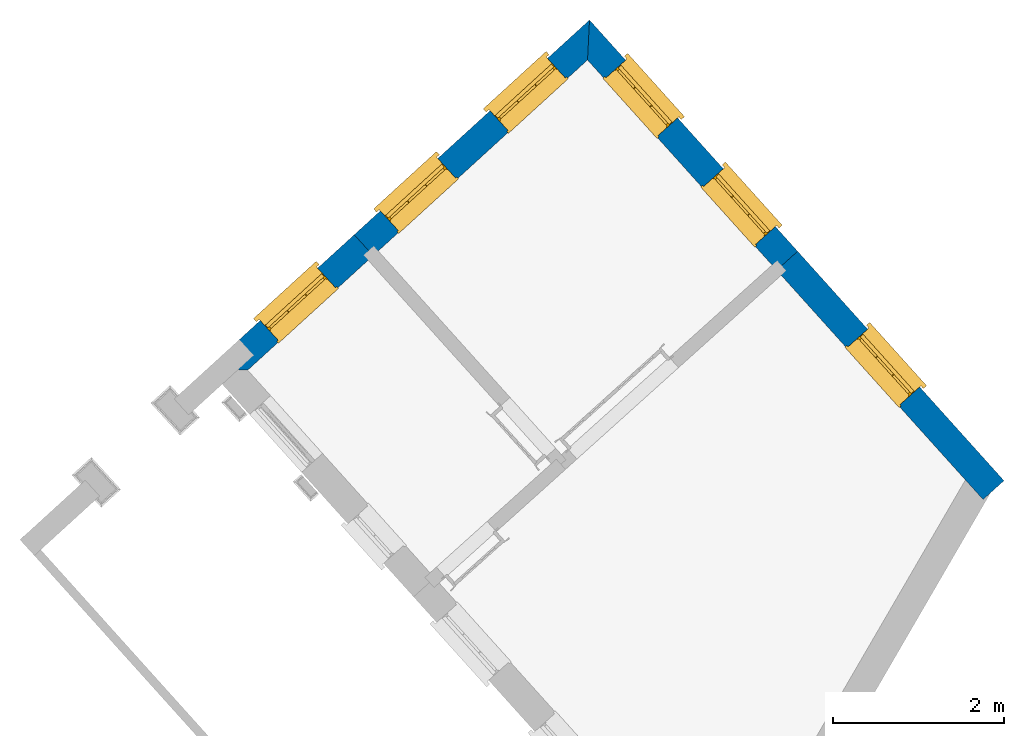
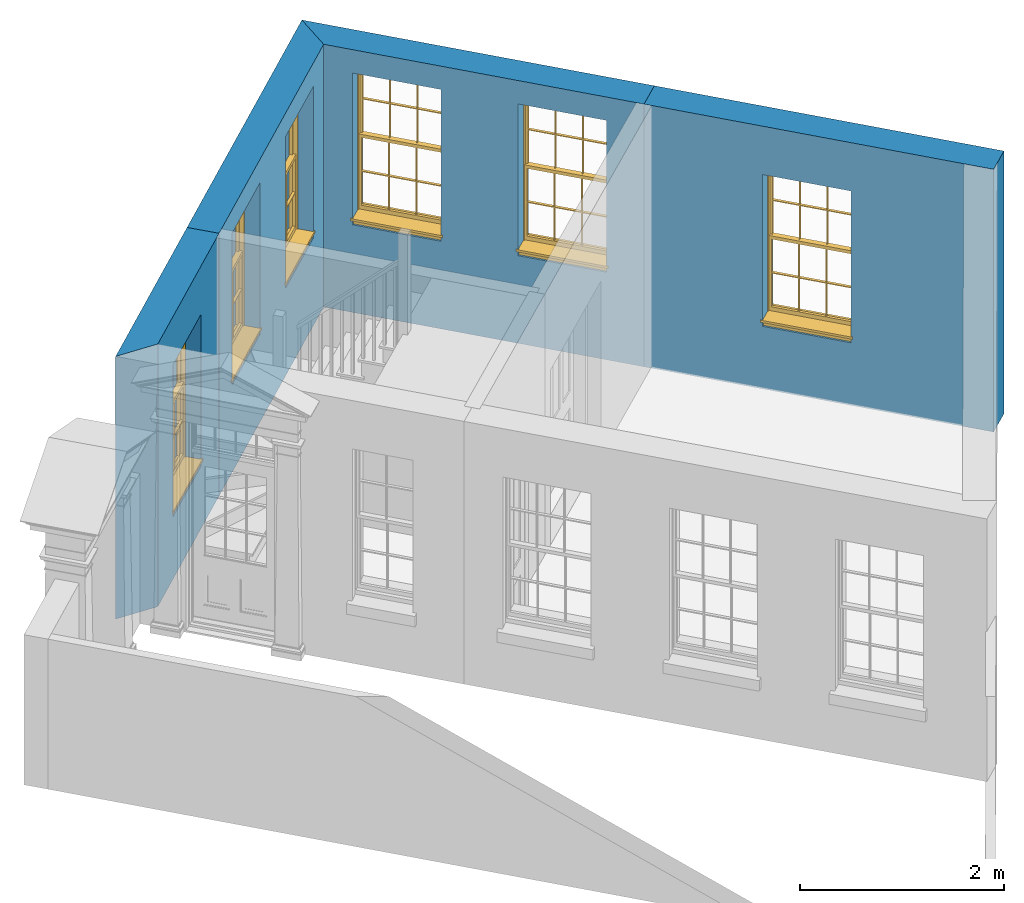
# One storey, part 6 of 7: 6 windows, 4 walls, 6 openings.
"""IFC4 building model written with IfcOpenShell, lengths in metres."""

from ifc_helpers import new_model, si_unit, frame, origin, origin_with_axes, place, context, subcontext, project, spatial, polyline, outline, extrude, faceted_brep, source, transform, mapped, material, layer, layer_set, layer_usage, type_object, type_shapes, element, fill, save


model = new_model("IFC4")

# Units and contexts
model_context = context("Model", 3, world=origin_with_axes())
body_context = subcontext(model_context, "Body", "Model", "MODEL_VIEW")
ifc_project = project(units=[si_unit("PLANEANGLEUNIT", "RADIAN"), si_unit("MASSUNIT", "GRAM", prefix="KILO"), si_unit("FORCEUNIT", "NEWTON", prefix="KILO"), si_unit("LENGTHUNIT", "METRE"), si_unit("AREAUNIT", "SQUARE_METRE"), si_unit("VOLUMEUNIT", "CUBIC_METRE")], contexts=[model_context, model_context])

# Sites, building, storey
site_1_placement = place(None, origin_with_axes())
site_1 = spatial("IfcSite", under=ifc_project, at=site_1_placement, Name="Tamar")
site_2_placement = place(site_1_placement, origin_with_axes())
site_2 = spatial("IfcSite", under=site_1, at=site_2_placement, Name="Site plot-7", CompositionType="ELEMENT")
building_placement = place(None, origin_with_axes())
building = spatial("IfcBuilding", under=site_2, at=building_placement, Name="Building plot-7", CompositionType="ELEMENT")
storey_placement = place(None, frame((0.0, 0.0, 26.0), z_axis=(0.0, 0.0, 1.0), x_axis=(1.0, 0.0, 0.0)))
storey = spatial("IfcBuildingStorey", under=building, at=storey_placement, Name="plot-7 0", CompositionType="ELEMENT", Elevation=26.0)

# Wall, opening, window
ifc_material = material(Name="Masonry")
ifc_layer = layer(ifc_material, 0.33, ventilated=False)
ifc_layer_set = layer_set([ifc_layer], Name="exterior_0.08_0.25")
ifc_layer_usage = layer_usage(ifc_layer_set, "AXIS2", "POSITIVE", -0.25)
wall_type = type_object("IfcWallType", Name="exterior_0.08_0.25", PredefinedType="SOLIDWALL", material=ifc_layer_set)
wall_1_placement = place(storey_placement, frame((248.082755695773, 285.854256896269, 0.0), z_axis=(0.0, 0.0, 1.0), x_axis=(-0.668853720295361, 0.743394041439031, 0.0)))
wall_1 = element("IfcWall", 1, at=wall_1_placement, inside=storey, type_object=wall_type, material=ifc_layer_usage, Name="exterior", context=body_context, shape_type="SweptSolid", body=[
    extrude(outline(polyline([(-0.249999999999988, 0.0799999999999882), (-0.249999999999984, -0.250000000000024), (3.36114548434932, -0.250000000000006), (3.36114548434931, 0.0800000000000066), (-0.249999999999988, 0.0799999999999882)])), origin_with_axes(), (0.0, 0.0, 1.0), 3.15),
])
opening_1_placement = place(wall_1_placement, frame((1.22557274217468, 0.0, 0.75)))
opening_1 = element("IfcOpeningElement", 2, at=opening_1_placement, cuts=wall_1, Name="My Opening", ObjectType="Opening", context=body_context, shape_type="SweptSolid", body=[
    extrude(outline(polyline([(0.0, -0.270000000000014), (0.909999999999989, -0.270000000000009), (0.909999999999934, 1.10000000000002), (-5.55111512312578e-14, 1.10000000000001), (0.0, -0.270000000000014)])), origin_with_axes(), (0.0, 0.0, 1.0), 1.82),
])
window_type = type_object("IfcWindowType", Name="sash_big", PartitioningType="DOUBLE_PANEL_HORIZONTAL", PredefinedType="NOTDEFINED")
shared_shape = source(origin(), body_context, "Body", "Brep", [
    faceted_brep([(0.033125, 0.145, 0.975209), (0.01, 0.145, 0.975209), (0.033125, 0.145, 1.376042), (0.876875, 0.145, 0.975209), (0.876875, 0.145, 1.376042), (0.9, 0.145, 0.975209), (0.876875, 0.145, 1.386042), (0.876875, 0.145, 1.786875), (0.9, 0.145, 1.81), (0.033125, 0.145, 1.786875), (0.033125, 0.145, 1.386042), (0.01, 0.145, 1.81), (0.876875, 0.115, 1.376042), (0.876875, 0.115, 0.975209), (0.9, 0.115, 0.937083), (0.033125, 0.115, 1.786875), (0.01, 0.115, 1.81), (0.033125, 0.115, 1.386042), (0.01, 0.115, 0.937083), (0.033125, 0.115, 0.975209), (0.033125, 0.115, 1.376042), (0.876875, 0.115, 1.786875), (0.876875, 0.115, 1.386042), (0.9, 0.115, 1.81), (0.033125, 0.145, 0.937083), (0.01, 0.145, 0.937083), (0.033125, 0.145, 0.53625), (0.876875, 0.145, 0.937083), (0.876875, 0.145, 0.53625), (0.9, 0.145, 0.937083), (0.876875, 0.145, 0.52625), (0.876875, 0.145, 0.125417), (0.9, 0.145, 0.077167), (0.033125, 0.145, 0.125417), (0.033125, 0.145, 0.52625), (0.01, 0.145, 0.077167), (-0.0425, 0.0, 0.01), (-0.0425, -0.05, 0.001667), (0.0, 0.0, 0.01), (0.9525, 0.0, 0.01), (0.91, 0.0, 0.01), (0.9525, -0.05, 0.001667), (-0.02, 0.33, 0.077167), (0.0, 0.33, 0.077167), (-0.02, 0.36, 0.077167), (0.0, 0.19, 0.077167), (0.01, 0.19, 0.077167), (0.91, 0.19, 0.077167), (0.91, 0.33, 0.077167), (0.9, 0.19, 0.077167), (0.93, 0.33, 0.077167), (0.93, 0.36, 0.077167), (0.01, 0.175, 0.975209), (0.9, 0.175, 0.975209), (0.876875, 0.175, 0.125417), (0.876875, 0.175, 0.52625), (0.9, 0.175, 0.077167), (0.876875, 0.175, 0.53625), (0.876875, 0.175, 0.937083), (0.033125, 0.175, 0.125417), (0.01, 0.175, 0.077167), (0.033125, 0.175, 0.52625), (0.033125, 0.175, 0.937083), (0.033125, 0.175, 0.53625), (-0.02, 0.33, 0.052167), (-0.02, 0.36, 0.052167), (0.93, 0.36, 0.052167), (0.93, 0.33, 0.052167), (0.91, 0.33, 0.052167), (0.0, 0.33, 0.052167), (0.91, 0.1, 0.026667), (0.0, 0.1, 0.026667), (-0.0425, -0.05, -0.123333), (0.9525, -0.05, -0.123333), (-0.0425, 0.0, -0.123333), (0.9525, 0.0, -0.123333), (0.01, 0.19, 1.81), (0.9, 0.19, 1.81), (0.0, 0.19, 1.82), (0.91, 0.19, 1.82), (0.01, 0.1, 0.077167), (0.9, 0.1, 0.077167), (0.592292, 0.145, 0.125417), (0.592292, 0.175, 0.125417), (0.317708, 0.175, 0.125417), (0.317708, 0.145, 0.125417), (0.592292, 0.145, 0.53625), (0.317708, 0.145, 0.53625), (0.317708, 0.145, 0.52625), (0.592292, 0.145, 0.52625), (0.592292, 0.175, 0.53625), (0.317708, 0.175, 0.53625), (0.592292, 0.115, 1.386042), (0.592292, 0.145, 1.386042), (0.317708, 0.145, 1.386042), (0.317708, 0.115, 1.386042), (0.317708, 0.115, 1.376042), (0.592292, 0.115, 1.376042), (0.317708, 0.145, 1.376042), (0.592292, 0.145, 1.376042), (0.602292, 0.115, 1.376042), (0.592292, 0.115, 0.975209), (0.602292, 0.115, 0.975209), (0.602292, 0.145, 0.975209), (0.592292, 0.145, 0.975209), (0.602292, 0.145, 1.376042), (0.602292, 0.175, 0.53625), (0.602292, 0.145, 0.53625), (0.317708, 0.175, 0.52625), (0.307708, 0.175, 0.125417), (0.307708, 0.175, 0.52625), (0.602292, 0.175, 0.52625), (0.602292, 0.175, 0.125417), (0.592292, 0.175, 0.52625), (0.307708, 0.175, 0.53625), (0.317708, 0.175, 0.937083), (0.307708, 0.175, 0.937083), (0.602292, 0.175, 0.937083), (0.592292, 0.175, 0.937083), (0.307708, 0.145, 0.52625), (0.307708, 0.145, 0.125417), (0.307708, 0.145, 0.53625), (0.307708, 0.145, 0.937083), (0.592292, 0.145, 0.937083), (0.317708, 0.145, 0.937083), (0.602292, 0.145, 0.937083), (0.602292, 0.145, 0.52625), (0.602292, 0.145, 0.125417), (0.307708, 0.115, 1.386042), (0.307708, 0.115, 1.376042), (0.307708, 0.115, 0.975209), (0.317708, 0.115, 0.975209), (0.317708, 0.115, 1.786875), (0.307708, 0.115, 1.786875), (0.602292, 0.115, 1.786875), (0.592292, 0.115, 1.786875), (0.602292, 0.115, 1.386042), (0.602292, 0.145, 1.386042), (0.307708, 0.145, 1.386042), (0.307708, 0.145, 1.786875), (0.317708, 0.145, 1.786875), (0.592292, 0.145, 1.786875), (0.602292, 0.145, 1.786875), (0.307708, 0.145, 1.376042), (0.317708, 0.145, 0.975209), (0.307708, 0.145, 0.975209), (0.91, 0.1, 1.82), (0.9, 0.1, 1.81), (0.01, 0.1, 1.81), (0.0, 0.1, 1.82), (0.91, 0.0, 0.0), (0.0, 0.0, 0.0), (0.91, 0.33, 0.0), (0.0, 0.33, 0.0)], [[[0, 1, 2]], [[3, 4, 5]], [[6, 7, 8]], [[9, 10, 11]], [[12, 13, 14]], [[15, 16, 17]], [[18, 19, 20]], [[21, 22, 23]], [[24, 25, 26]], [[27, 28, 29]], [[30, 31, 32]], [[33, 34, 35]], [[14, 27, 29]], [[25, 24, 18]], [[36, 37, 38]], [[39, 40, 41]], [[42, 43, 44]], [[45, 46, 43]], [[47, 48, 49]], [[50, 51, 48]], [[1, 0, 52]], [[5, 53, 3]], [[54, 55, 56]], [[57, 58, 53]], [[59, 60, 61]], [[62, 63, 52]], [[48, 43, 46, 49]], [[51, 44, 43, 48]], [[64, 42, 44, 65]], [[65, 44, 51, 66]], [[66, 51, 50, 67]], [[65, 66, 68, 69]], [[60, 56, 49, 46]], [[70, 71, 38, 40]], [[37, 41, 40, 38]], [[37, 72, 73, 41]], [[74, 75, 73, 72]], [[8, 11, 76, 77]], [[76, 78, 79, 77]], [[32, 35, 80, 81]], [[81, 80, 71, 70]], [[82, 83, 84, 85]], [[86, 87, 88, 89]], [[86, 90, 91, 87]], [[92, 93, 94, 95]], [[92, 95, 96, 97]], [[96, 98, 99, 97]], [[100, 97, 101, 102]], [[103, 104, 99, 105]], [[97, 99, 104, 101]], [[102, 103, 105, 100]], [[28, 57, 106, 107]], [[108, 84, 109, 110]], [[111, 112, 83, 113]], [[114, 110, 61, 63]], [[90, 113, 108, 91]], [[115, 91, 114, 116]], [[117, 106, 90, 118]], [[111, 106, 57, 55]], [[119, 110, 109, 120]], [[34, 61, 110, 119]], [[89, 113, 83, 82]], [[88, 108, 113, 89]], [[85, 84, 108, 88]], [[121, 114, 63, 26]], [[122, 116, 114, 121]], [[123, 118, 90, 86]], [[87, 91, 115, 124]], [[107, 106, 117, 125]], [[126, 111, 55, 30]], [[127, 112, 111, 126]], [[126, 30, 28, 107]], [[88, 119, 120, 85]], [[126, 89, 82, 127]], [[125, 123, 86, 107]], [[121, 26, 34, 119]], [[124, 122, 121, 87]], [[128, 17, 20, 129]], [[96, 129, 130, 131]], [[132, 133, 128, 95]], [[134, 135, 92, 136]], [[100, 12, 22, 136]], [[137, 6, 4, 105]], [[94, 138, 139, 140]], [[137, 93, 141, 142]], [[99, 98, 94, 93]], [[143, 2, 10, 138]], [[144, 145, 143, 98]], [[129, 143, 145, 130]], [[20, 2, 143, 129]], [[131, 144, 98, 96]], [[128, 138, 10, 17]], [[133, 139, 138, 128]], [[135, 141, 93, 92]], [[95, 94, 140, 132]], [[22, 6, 137, 136]], [[136, 137, 142, 134]], [[100, 105, 4, 12]], [[107, 86, 89, 126]], [[106, 111, 113, 90]], [[91, 108, 110, 114]], [[87, 121, 119, 88]], [[97, 100, 136, 92]], [[129, 96, 95, 128]], [[98, 143, 138, 94]], [[105, 99, 93, 137]], [[131, 101, 104, 144]], [[124, 115, 118, 123]], [[132, 140, 141, 135]], [[120, 109, 59, 33]], [[15, 9, 139, 133]], [[134, 142, 7, 21]], [[31, 54, 112, 127]], [[36, 74, 72, 37]], [[39, 41, 73, 75]], [[18, 14, 101, 131]], [[23, 16, 132, 135]], [[83, 56, 60, 84]], [[52, 53, 118, 115]], [[53, 52, 144, 104]], [[11, 8, 141, 140]], [[14, 18, 124, 123]], [[2, 1, 11, 10]], [[8, 5, 4, 6]], [[57, 53, 56, 55]], [[60, 52, 63, 61]], [[26, 25, 35, 34]], [[32, 29, 28, 30]], [[14, 23, 22, 12]], [[18, 20, 17, 16]], [[19, 0, 2, 20]], [[17, 10, 9, 15]], [[12, 4, 3, 13]], [[21, 7, 6, 22]], [[27, 58, 57, 28]], [[30, 55, 54, 31]], [[33, 59, 61, 34]], [[26, 63, 62, 24]], [[5, 8, 77, 53]], [[76, 11, 1, 52]], [[46, 45, 78, 76]], [[49, 77, 79, 47]], [[70, 146, 147, 81]], [[71, 80, 148, 149]], [[19, 130, 145, 0]], [[102, 13, 3, 103]], [[116, 122, 24, 62]], [[29, 32, 81, 14]], [[80, 35, 25, 18]], [[60, 46, 76, 52]], [[77, 49, 56, 53]], [[23, 14, 81, 147]], [[16, 148, 80, 18]], [[35, 85, 120]], [[120, 33, 35]], [[127, 82, 32]], [[32, 31, 127]], [[32, 82, 85, 35]], [[102, 101, 14]], [[14, 13, 102]], [[18, 131, 130]], [[130, 19, 18]], [[134, 21, 23]], [[23, 135, 134]], [[16, 15, 133]], [[133, 132, 16]], [[11, 140, 139]], [[139, 9, 11]], [[142, 141, 8]], [[8, 7, 142]], [[23, 147, 148, 16]], [[146, 149, 148, 147]], [[52, 115, 116]], [[116, 62, 52]], [[118, 53, 117]], [[58, 117, 53]], [[27, 125, 117, 58]], [[56, 83, 112]], [[112, 54, 56]], [[109, 84, 60]], [[60, 59, 109]], [[125, 27, 14]], [[14, 123, 125]], [[122, 124, 18]], [[18, 24, 122]], [[145, 144, 52]], [[52, 0, 145]], [[103, 3, 53]], [[53, 104, 103]], [[79, 78, 149, 146]], [[78, 45, 71, 149]], [[146, 70, 47, 79]], [[150, 75, 74, 151]], [[68, 66, 67]], [[48, 68, 67, 50]], [[69, 64, 65]], [[42, 64, 69, 43]], [[69, 68, 152, 153]], [[70, 68, 48, 47]], [[150, 152, 68, 70]], [[43, 69, 71, 45]], [[69, 153, 151, 71]], [[152, 150, 151, 153]], [[38, 151, 74, 36]], [[71, 151, 38]], [[39, 75, 150, 40]], [[40, 150, 70]]]),
])
type_shapes(window_type, [shared_shape])
window_1_placement = place(storey_placement, frame((247.463743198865, 286.945930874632, 0.75), z_axis=(0.0, 0.0, 1.0), x_axis=(-0.608656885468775, 0.676488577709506, 0.0)))
window_1 = element("IfcWindow", 3, at=window_1_placement, inside=storey, type_object=window_type, Name="living street window", OverallHeight=1.82, OverallWidth=0.91, context=body_context, shape_type="MappedRepresentation", body=[
    mapped(shared_shape, transform((0.0, 0.0, 0.0), scale=1.0)),
])
fill(opening_1, window_1)

# Wall, openings, windows
wall_2_placement = place(storey_placement, frame((245.834641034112, 288.352912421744, 0.0), z_axis=(0.0, 0.0, 1.0), x_axis=(-0.668853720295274, 0.743394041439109, 0.0)))
wall_2 = element("IfcWall", 4, at=wall_2_placement, inside=storey, type_object=wall_type, material=ifc_layer_usage, Name="exterior", context=body_context, shape_type="SweptSolid", body=[
    extrude(outline(polyline([(-1.36019948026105e-14, 0.080000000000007), (2.89921290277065e-14, -0.250000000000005), (3.64121916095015, -0.250000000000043), (3.30886085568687, 0.0799999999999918), (-1.36019948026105e-14, 0.080000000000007)])), origin_with_axes(), (0.0, 0.0, 1.0), 3.15),
])
opening_2_placement = place(wall_2_placement, frame((0.38943256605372, 0.0, 1.05)))
opening_2 = element("IfcOpeningElement", 5, at=opening_2_placement, cuts=wall_2, Name="My Opening", ObjectType="Opening", context=body_context, shape_type="SweptSolid", body=[
    extrude(outline(polyline([(0.0, -0.269999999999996), (0.909999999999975, -0.269999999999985), (0.910000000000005, 1.09999999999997), (3.0142555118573e-14, 1.09999999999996), (0.0, -0.269999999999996)])), origin_with_axes(), (0.0, 0.0, 1.0), 1.82),
])
opening_3_placement = place(wall_2_placement, frame((2.09943256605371, 0.0, 1.05)))
opening_3 = element("IfcOpeningElement", 6, at=opening_3_placement, cuts=wall_2, Name="My Opening", ObjectType="Opening", context=body_context, shape_type="SweptSolid", body=[
    extrude(outline(polyline([(0.0, -0.269999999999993), (0.909999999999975, -0.269999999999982), (0.910000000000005, 1.09999999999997), (3.01980662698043e-14, 1.09999999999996), (0.0, -0.269999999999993)])), origin_with_axes(), (0.0, 0.0, 1.0), 1.82),
])
window_2_placement = place(storey_placement, frame((245.774884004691, 288.82300477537, 1.05), z_axis=(0.0, 0.0, 1.0), x_axis=(-0.60865688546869, 0.676488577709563, 0.0)))
window_2 = element("IfcWindow", 7, at=window_2_placement, inside=storey, type_object=window_type, Name="kitchen street window", OverallHeight=1.82, OverallWidth=0.91, context=body_context, shape_type="MappedRepresentation", body=[
    mapped(shared_shape, transform((0.0, 0.0, 0.0), scale=1.0)),
])
fill(opening_2, window_2)
window_3_placement = place(storey_placement, frame((244.631144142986, 290.094208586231, 1.05), z_axis=(0.0, 0.0, 1.0), x_axis=(-0.60865688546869, 0.676488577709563, 0.0)))
window_3 = element("IfcWindow", 8, at=window_3_placement, inside=storey, type_object=window_type, Name="kitchen street window", OverallHeight=1.82, OverallWidth=0.91, context=body_context, shape_type="MappedRepresentation", body=[
    mapped(shared_shape, transform((0.0, 0.0, 0.0), scale=1.0)),
])
fill(opening_3, window_3)

wall_3_placement = place(storey_placement, frame((243.567606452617, 290.872596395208, 0.0), z_axis=(0.0, 0.0, 1.0), x_axis=(-0.738612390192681, -0.674130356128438, 0.0)))
wall_3 = element("IfcWall", 9, at=wall_3_placement, inside=storey, type_object=wall_type, material=ifc_layer_usage, Name="exterior", context=body_context, shape_type="SweptSolid", body=[
    extrude(outline(polyline([(0.0805717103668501, 0.0799999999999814), (-0.251786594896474, -0.250000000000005), (3.47624042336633, -0.249999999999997), (3.4762404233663, 0.0799999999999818), (0.0805717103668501, 0.0799999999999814)])), origin_with_axes(), (0.0, 0.0, 1.0), 3.15),
])
opening_4_placement = place(wall_3_placement, frame((0.414060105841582, 0.0, 1.05)))
opening_4 = element("IfcOpeningElement", 10, at=opening_4_placement, cuts=wall_3, Name="My Opening", ObjectType="Opening", context=body_context, shape_type="SweptSolid", body=[
    extrude(outline(polyline([(0.0, -0.270000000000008), (0.909999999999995, -0.269999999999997), (0.909999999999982, 1.1), (-1.45439216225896e-14, 1.09999999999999), (0.0, -0.270000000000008)])), origin_with_axes(), (0.0, 0.0, 1.0), 1.82),
])
opening_5_placement = place(wall_3_placement, frame((2.15218031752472, 0.0, 1.05)))
opening_5 = element("IfcOpeningElement", 11, at=opening_5_placement, cuts=wall_3, Name="My Opening", ObjectType="Opening", context=body_context, shape_type="SweptSolid", body=[
    extrude(outline(polyline([(0.0, -0.27000000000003), (0.909999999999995, -0.270000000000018), (0.909999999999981, 1.09999999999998), (-1.4210854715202e-14, 1.09999999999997), (0.0, -0.27000000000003)])), origin_with_axes(), (0.0, 0.0, 1.0), 1.82),
])
window_4_placement = place(storey_placement, frame((243.079761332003, 290.79289125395, 1.05), z_axis=(0.0, 0.0, 1.0), x_axis=(-0.672137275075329, -0.613458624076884, 0.0)))
window_4 = element("IfcWindow", 12, at=window_4_placement, inside=storey, type_object=window_type, Name="kitchen street window", OverallHeight=1.82, OverallWidth=0.91, context=body_context, shape_type="MappedRepresentation", body=[
    mapped(shared_shape, transform((0.0, 0.0, 0.0), scale=1.0)),
])
fill(opening_4, window_4)
window_5_placement = place(storey_placement, frame((241.79596420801, 289.621171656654, 1.05), z_axis=(0.0, 0.0, 1.0), x_axis=(-0.672137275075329, -0.613458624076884, 0.0)))
window_5 = element("IfcWindow", 13, at=window_5_placement, inside=storey, type_object=window_type, Name="kitchen street window", OverallHeight=1.82, OverallWidth=0.91, context=body_context, shape_type="MappedRepresentation", body=[
    mapped(shared_shape, transform((0.0, 0.0, 0.0), scale=1.0)),
])
fill(opening_5, window_5)

# Wall, opening, window
wall_4_placement = place(storey_placement, frame((241.00001220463, 288.529157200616, 0.0), z_axis=(0.0, 0.0, 1.0), x_axis=(-0.738612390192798, -0.67413035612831, 0.0)))
wall_4 = element("IfcWall", 14, at=wall_4_placement, inside=storey, type_object=wall_type, material=ifc_layer_usage, Name="exterior", context=body_context, shape_type="SweptSolid", body=[
    extrude(outline(polyline([(-3.09233047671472e-14, 0.0799999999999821), (4.86430765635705e-14, -0.249999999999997), (2.31704891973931, -0.250000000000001), (1.98939049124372, 0.0800000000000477), (-3.09233047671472e-14, 0.0799999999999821)])), origin_with_axes(), (0.0, 0.0, 1.0), 3.15),
])
opening_6_placement = place(wall_4_placement, frame((0.579411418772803, 0.0, 0.75)))
opening_6 = element("IfcOpeningElement", 15, at=opening_6_placement, cuts=wall_4, Name="My Opening", ObjectType="Opening", context=body_context, shape_type="SweptSolid", body=[
    extrude(outline(polyline([(0.0, -0.269999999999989), (0.910000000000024, -0.269999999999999), (0.909999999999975, 1.09999999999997), (-4.85167461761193e-14, 1.09999999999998), (0.0, -0.269999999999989)])), origin_with_axes(), (0.0, 0.0, 1.0), 1.82),
])
window_6_placement = place(storey_placement, frame((240.390036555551, 288.337983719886, 0.75), z_axis=(0.0, 0.0, 1.0), x_axis=(-0.672137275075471, -0.61345862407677, 0.0)))
window_6 = element("IfcWindow", 16, at=window_6_placement, inside=storey, type_object=window_type, Name="circulation street window", OverallHeight=1.82, OverallWidth=0.91, context=body_context, shape_type="MappedRepresentation", body=[
    mapped(shared_shape, transform((0.0, 0.0, 0.0), scale=1.0)),
])
fill(opening_6, window_6)

save(model, "model.ifc")
